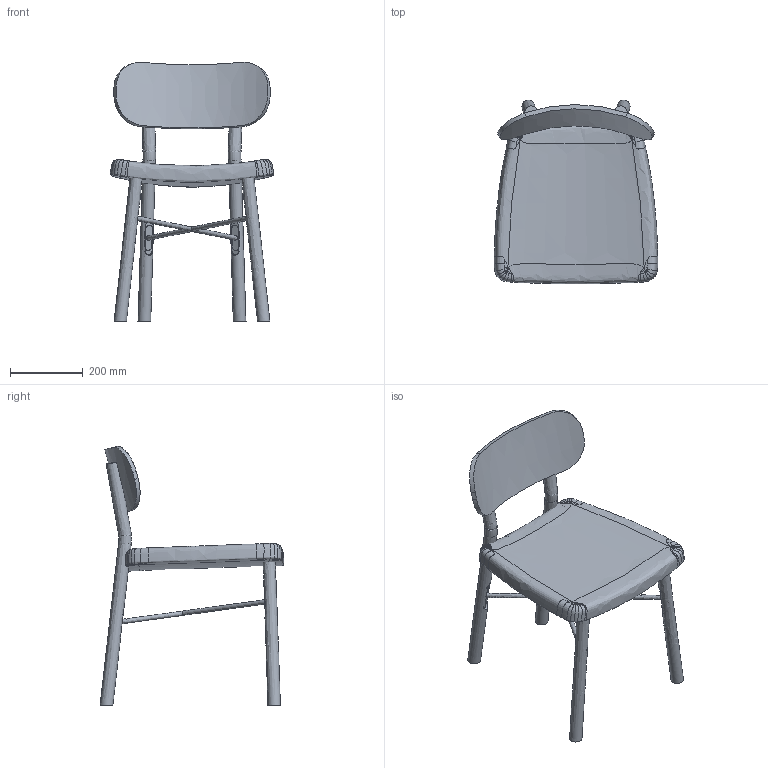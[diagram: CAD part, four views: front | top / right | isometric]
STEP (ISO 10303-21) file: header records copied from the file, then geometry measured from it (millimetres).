
FILE_DESCRIPTION(/* description */ (''),/* implementation_level */ '2;1');
FILE_NAME(/* name */ 'kinoshita_coccole_c127',/* time_stamp */ '2026-09-24T15:15:22+09:00',/* author */ (''),/* organization */ (''),/* preprocessor_version */ 'ST-DEVELOPER v16.5',/* originating_system */ '',/* authorisation */ '');
FILE_SCHEMA (('AUTOMOTIVE_DESIGN'));
Length unit declared in the file: millimetre
Products named in the file (1): Document
Bounding box: 449.44 x 505.83 x 713.18 mm (x, y, z)
Volume: 10967726.1 mm3; surface area: 861400.2 mm2
Topology: 5 solids, 6 shells, 142 faces, 305 edges, 184 vertices
Faces by surface type: bspline 136, plane 6
Entity records: 51439 total; most frequent: CARTESIAN_POINT 49344, ORIENTED_EDGE 609, EDGE_CURVE 305, B_SPLINE_CURVE_WITH_KNOTS 305, VERTEX_POINT 184, EDGE_LOOP 152, ADVANCED_FACE 142, FACE_OUTER_BOUND 142
